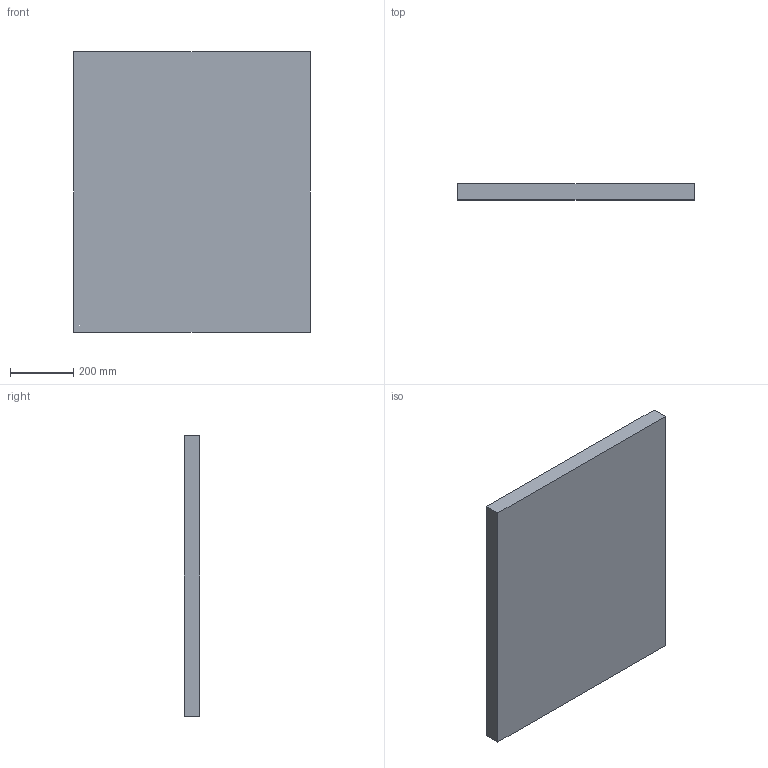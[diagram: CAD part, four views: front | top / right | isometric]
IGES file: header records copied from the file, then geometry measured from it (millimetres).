
Start section: SolidWorks IGES file using analytic representation for surfaces
Global section: file name: \\Logicserver\datos\01-VICCARBE\PRODUCTOS\53-SISTEMA\04-MODELADOS (PLANOS)\WEB\viccarbe-sistema-3D\Modulos\Mesa baja.IGS; native system: SolidWorks 2013; preprocessor: SolidWorks 2013; author: bdisenyo; date: 170120.122835; units: millimetre
Bounding box: 750 x 50 x 890 mm (x, y, z)
Surface area: 1499000 mm2 (no closed solid volume)
Topology: 0 solids, 0 shells, 6 faces, 24 edges, 24 vertices
Faces by surface type: bspline 6
